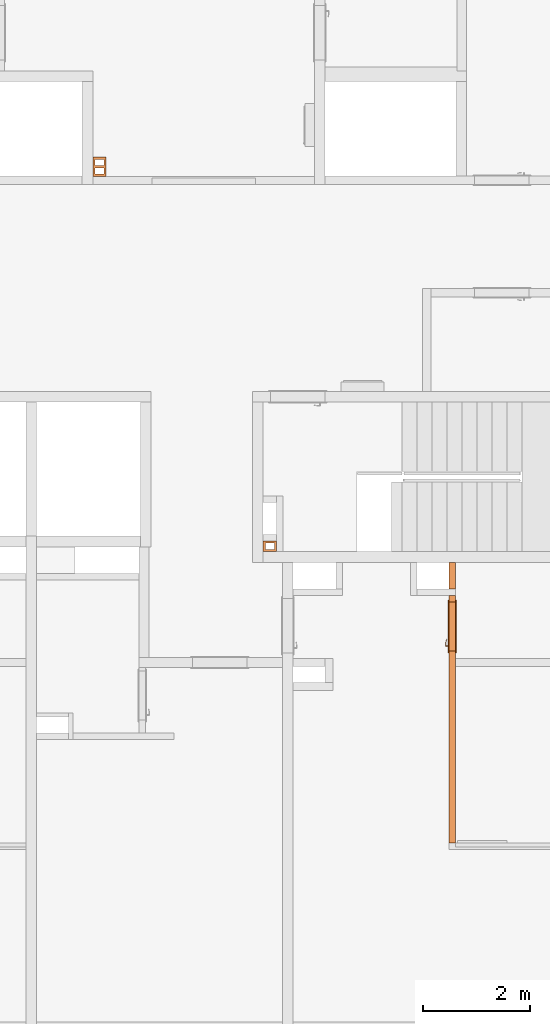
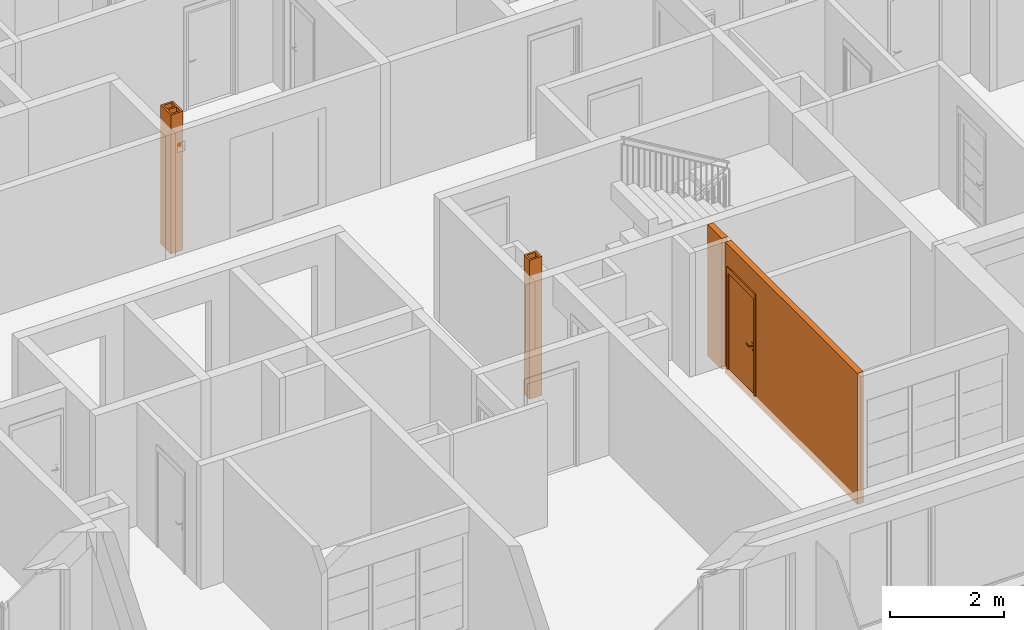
# One storey, part 28 of 67: 4 proxies, 1 opening.
"""IFC2X3 building model written with IfcOpenShell, lengths in millimetres."""

import ifcopenshell
import ifcopenshell.guid

model = None  # the IFC model being written
_history = None  # IfcOwnerHistory: only IFC2X3 demands one
_inside = {}  # id of a spatial element -> (the spatial element, [elements in it])
_under = {}  # id of a project, library or spatial element -> (it, [spatial elements below it])
_declared = {}  # id of a project -> (the project, [libraries it declares])
_typed = {}  # id of a type object -> (the type object, [elements of that type])
_made_of = {}  # id of a material, layer set ... -> (it, [elements and type objects made of it])


def new_model(schema):
    """Start an empty IFC model of exactly this schema.

    Asked for "IFC4X3", IfcOpenShell would pick the latest addendum, in which some entities
    have other attributes; the version numbers below select the first issue.
    IFC2X3 requires an IfcOwnerHistory on every rooted entity: one is made here for all.
    """
    global model, _history
    if schema == "IFC4X3":
        model = ifcopenshell.file(schema_version=(4, 3, 0, 0))
    else:
        model = ifcopenshell.file(schema=schema)
    _inside.clear()
    _under.clear()
    _declared.clear()
    _typed.clear()
    _made_of.clear()
    _history = None
    if model.schema == "IFC2X3":
        org = make("IfcOrganization", Name="unknown")
        user = make(
            "IfcPersonAndOrganization",
            ThePerson=make("IfcPerson", FamilyName="unknown"),
            TheOrganization=org,
        )
        app = make(
            "IfcApplication",
            ApplicationDeveloper=org,
            Version="unknown",
            ApplicationFullName="unknown",
            ApplicationIdentifier="unknown",
        )
        _history = make(
            "IfcOwnerHistory",
            OwningUser=user,
            OwningApplication=app,
            ChangeAction="ADDED",
            CreationDate=0,
        )
    return model


def make(cls, **values):
    """One entity of the class cls with the attributes given. An attribute that is None is left unset."""
    return model.create_entity(
        cls, **{name: value for name, value in values.items() if value is not None}
    )


def entity(cls, *values):
    """Any entity or typed value of the class cls, its attributes in the order of the schema. None: left unset."""
    e = model.create_entity(cls)
    for i, value in enumerate(values):
        if value is not None:
            e[i] = value
    return e


def rooted(cls, **values):
    """An entity with a GlobalId (a new one), such as an element, a storey or a relation."""
    return make(cls, GlobalId=ifcopenshell.guid.new(), OwnerHistory=_history, **values)


def si_unit(unit_type, name, prefix=None):
    """IfcSIUnit, for example si_unit("LENGTHUNIT", "METRE", prefix="MILLI")."""
    return make("IfcSIUnit", UnitType=unit_type, Prefix=prefix, Name=name)


def converted_unit(unit_type, name, factor, base, dimensions=None, offset=None):
    """IfcConversionBasedUnit, such as the inch: factor (a typed value) times the base unit."""
    return make(
        "IfcConversionBasedUnit"
        if offset is None
        else "IfcConversionBasedUnitWithOffset",
        ConversionOffset=offset,
        Dimensions=None
        if dimensions is None
        else entity("IfcDimensionalExponents", *dimensions),
        UnitType=unit_type,
        Name=name,
        ConversionFactor=make(
            "IfcMeasureWithUnit", ValueComponent=factor, UnitComponent=base
        ),
    )


def derived_unit(unit_type, elements):
    """IfcDerivedUnit: a product of units, each with its exponent."""
    return make(
        "IfcDerivedUnit",
        Elements=[
            make("IfcDerivedUnitElement", Unit=unit, Exponent=power)
            for unit, power in elements
        ],
        UnitType=unit_type,
    )


def money_unit(currency):
    """IfcMonetaryUnit."""
    return make("IfcMonetaryUnit", Currency=currency)


def assignment(units):
    """IfcUnitAssignment: the units of a project."""
    return None if units is None else make("IfcUnitAssignment", Units=units)


def point(xyz):
    """IfcCartesianPoint."""
    return None if xyz is None else make("IfcCartesianPoint", Coordinates=xyz)


def direction(xyz):
    """IfcDirection."""
    return None if xyz is None else make("IfcDirection", DirectionRatios=xyz)


def frame(location, z_axis=None, x_axis=None):
    """IfcAxis2Placement3D, a coordinate frame: its origin and axes. An axis left out is left unset."""
    return make(
        "IfcAxis2Placement3D",
        Location=point(location),
        Axis=direction(z_axis),
        RefDirection=direction(x_axis),
    )


def frame_2d(location, x_axis=None):
    """IfcAxis2Placement2D, a coordinate frame in the plane: its origin and x axis."""
    return make(
        "IfcAxis2Placement2D", Location=point(location), RefDirection=direction(x_axis)
    )


def origin_with_axes():
    """The frame at (0, 0, 0) with the z axis (0, 0, 1) and the x axis (1, 0, 0) written out."""
    return frame((0.0, 0.0, 0.0), z_axis=(0.0, 0.0, 1.0), x_axis=(1.0, 0.0, 0.0))


def origin_2d_with_axis():
    """The frame at (0, 0) in the plane with the x axis (1, 0) written out."""
    return frame_2d((0.0, 0.0), x_axis=(1.0, 0.0))


def place(relative_to, where):
    """IfcLocalPlacement: puts the frame where relative to a parent placement (None: the world)."""
    return make(
        "IfcLocalPlacement", PlacementRelTo=relative_to, RelativePlacement=where
    )


def context(
    kind, dimensions, precision=None, world=None, true_north=None, identifier=None
):
    """IfcGeometricRepresentationContext, for example the 3D "Model" context."""
    return make(
        "IfcGeometricRepresentationContext",
        ContextIdentifier=identifier,
        ContextType=kind,
        CoordinateSpaceDimension=dimensions,
        Precision=precision,
        WorldCoordinateSystem=world,
        TrueNorth=true_north,
    )


def subcontext(parent, identifier, kind, view, scale=None):
    """IfcGeometricRepresentationSubContext, for example "Body" below "Model"."""
    return make(
        "IfcGeometricRepresentationSubContext",
        ContextIdentifier=identifier,
        ContextType=kind,
        ParentContext=parent,
        TargetScale=scale,
        TargetView=view,
    )


def project(units=None, contexts=None):
    """IfcProject with its units and contexts."""
    return rooted(
        "IfcProject",
        Name="project",
        RepresentationContexts=contexts,
        UnitsInContext=assignment(units),
    )


def spatial(cls, under=None, at=None, **own):
    """A site, building, storey or space (cls), placed at a placement, below another one or the project."""
    s = rooted(cls, ObjectPlacement=at, **own)
    if under is not None:
        _under.setdefault(under.id(), (under, []))[1].append(s)
    return s


def profile(cls, at=None, kind="AREA", **sizes):
    """A parametric profile (cls). Its sizes go by their IFC names, for example OverallWidth=200.0."""
    return make(cls, ProfileType=kind, Position=at, **sizes)


def rectangle(**sizes):
    """IfcRectangleProfileDef."""
    return profile("IfcRectangleProfileDef", **sizes)


def extrude(swept, where, along, depth):
    """IfcExtrudedAreaSolid: the profile swept, set in the frame where, extruded along a direction by depth."""
    return make(
        "IfcExtrudedAreaSolid",
        SweptArea=swept,
        Position=where,
        ExtrudedDirection=direction(along),
        Depth=depth,
    )


def faces_of(points, faces, orient=None, outer=None):
    """IfcFace entities. A face is a list of loops; a loop is a list of indices into points, from 0.

    orient and outer hold one flag for each loop. By default every Orientation is true, the
    first loop of a face is its IfcFaceOuterBound and the others are IfcFaceBound.
    """
    made = []
    for i, loops in enumerate(faces):
        bounds = []
        for j, loop in enumerate(loops):
            is_outer = j == 0 if outer is None else outer[i][j]
            bounds.append(
                make(
                    "IfcFaceOuterBound" if is_outer else "IfcFaceBound",
                    Bound=make("IfcPolyLoop", Polygon=[points[k] for k in loop]),
                    Orientation=True if orient is None else orient[i][j],
                )
            )
        made.append(make("IfcFace", Bounds=bounds))
    return made


def open_shell(faces, orient=None, outer=None):
    """The faces of one IfcOpenShell. surface_model builds it on its shared points."""
    return ("IfcOpenShell", faces, orient, outer)


def faceted_brep(points, faces, orient=None, outer=None, voids=None):
    """IfcFacetedBrep: a solid bounded by flat faces; with voids (closed shells), ...WithVoids."""
    shared = [point(p) for p in points]
    hull = make("IfcClosedShell", CfsFaces=faces_of(shared, faces, orient, outer))
    if voids is None:
        return make("IfcFacetedBrep", Outer=hull)
    return make(
        "IfcFacetedBrepWithVoids",
        Outer=hull,
        Voids=[
            make(cls, CfsFaces=faces_of(shared, fs, o, b)) for cls, fs, o, b in voids
        ],
    )


def surface_model(cls, points, shells):
    """IfcFaceBasedSurfaceModel or IfcShellBasedSurfaceModel (cls): surfaces that need not close."""
    shared = [point(p) for p in points]
    made = [make(c, CfsFaces=faces_of(shared, fs, o, b)) for c, fs, o, b in shells]
    if cls == "IfcFaceBasedSurfaceModel":
        return make(cls, FbsmFaces=made)
    return make(cls, SbsmBoundary=made)


def shape(context_of_items, identifier, shape_type, items):
    """IfcShapeRepresentation: the items that make up one representation, for example the "Body"."""
    return make(
        "IfcShapeRepresentation",
        ContextOfItems=context_of_items,
        RepresentationIdentifier=identifier,
        RepresentationType=shape_type,
        Items=items,
    )


def source(mapping_origin, context_of_items, identifier, shape_type, items):
    """IfcRepresentationMap: a shape defined once, which mapped items show again and again."""
    return make(
        "IfcRepresentationMap",
        MappingOrigin=mapping_origin,
        MappedRepresentation=shape(context_of_items, identifier, shape_type, items),
    )


def transform(
    local_origin,
    x_axis=None,
    y_axis=None,
    z_axis=None,
    scale=None,
    scale2=None,
    scale3=None,
    uniform=True,
):
    """IfcCartesianTransformationOperator3D, or its non-uniform kind. x_axis, y_axis, z_axis: its Axis1, 2, 3."""
    if uniform:
        return make(
            "IfcCartesianTransformationOperator3D",
            Axis1=direction(x_axis),
            Axis2=direction(y_axis),
            LocalOrigin=point(local_origin),
            Scale=scale,
            Axis3=direction(z_axis),
        )
    return make(
        "IfcCartesianTransformationOperator3DnonUniform",
        Axis1=direction(x_axis),
        Axis2=direction(y_axis),
        LocalOrigin=point(local_origin),
        Scale=scale,
        Axis3=direction(z_axis),
        Scale2=scale2,
        Scale3=scale3,
    )


def mapped(mapping_source, mapping_target):
    """IfcMappedItem: shows the shape of a source again, moved by a transform."""
    return make(
        "IfcMappedItem", MappingSource=mapping_source, MappingTarget=mapping_target
    )


def material(Name=None, Category=None):
    """IfcMaterial."""
    return make("IfcMaterial", Name=Name, Category=Category)


def made_of(thing, what):
    """Note that an element or type object is made of a material, layer set ...; save() writes the relation."""
    if what is not None:
        _made_of.setdefault(what.id(), (what, []))[1].append(thing)
    return thing


def type_object(cls, material=None, **own):
    """A type object (cls), such as IfcWallType, which elements share."""
    return made_of(rooted(cls, **own), material)


def element(
    cls,
    number,
    at=None,
    inside=None,
    cuts=None,
    type_object=None,
    material=None,
    context=None,
    identifier="Body",
    shape_type=None,
    held_by="IfcProductDefinitionShape",
    body=None,
    shapes=None,
    **own,
):
    """One element of the class cls, such as IfcWall. Its Tag is "e" and its number.

    at: its placement. inside: the storey or other place that contains it. cuts: it is an
    opening in that element (IfcRelVoidsElement). A single representation is given by context,
    identifier, shape_type and body (its items); several are given by shapes. held_by: the class
    of the entity that holds the representations. save() writes the other relations.
    """
    e = rooted(cls, Tag="e%d" % number, ObjectPlacement=at, **own)
    if body is not None:
        shapes = [shape(context, identifier, shape_type, body)]
    if shapes is not None:
        e.Representation = make(held_by, Representations=shapes)
    if inside is not None:
        _inside.setdefault(inside.id(), (inside, []))[1].append(e)
    if cuts is not None:
        rooted(
            "IfcRelVoidsElement", RelatingBuildingElement=cuts, RelatedOpeningElement=e
        )
    if type_object is not None:
        _typed.setdefault(type_object.id(), (type_object, []))[1].append(e)
    return made_of(e, material)


def fill(opening, filler):
    """IfcRelFillsElement: the door or window that sits in an opening."""
    return rooted(
        "IfcRelFillsElement",
        RelatingOpeningElement=opening,
        RelatedBuildingElement=filler,
    )


def aggregate(whole, parts):
    """IfcRelAggregates: a whole, such as a stair, and the parts it consists of."""
    return rooted("IfcRelAggregates", RelatingObject=whole, RelatedObjects=parts)


def save(model, path):
    """Write the relations noted so far, then the file.

    IfcRelAggregates (storeys below a building ...), IfcRelContainedInSpatialStructure (elements
    in a storey), IfcRelDefinesByType, IfcRelAssociatesMaterial and IfcRelDeclares: one each for
    every whole, place, type object, material and project.
    """
    for whole, parts in _under.values():
        aggregate(whole, parts)
    for where, things in _inside.values():
        rooted(
            "IfcRelContainedInSpatialStructure",
            RelatedElements=things,
            RelatingStructure=where,
        )
    for kind, things in _typed.values():
        rooted("IfcRelDefinesByType", RelatedObjects=things, RelatingType=kind)
    for what, things in _made_of.values():
        rooted("IfcRelAssociatesMaterial", RelatedObjects=things, RelatingMaterial=what)
    for by, libraries in _declared.values():
        rooted("IfcRelDeclares", RelatingContext=by, RelatedDefinitions=libraries)
    model.write(path)


model = new_model("IFC2X3")

# Units and contexts
model_context = context("Model", 3, precision=0.01, world=origin_with_axes(), true_north=direction((0.34421633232, 0.938890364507)))
body_context = subcontext(model_context, "Body", "Model", "MODEL_VIEW")
ifc_project = project(units=[si_unit("LENGTHUNIT", "METRE", prefix="MILLI"), si_unit("AREAUNIT", "SQUARE_METRE"), si_unit("VOLUMEUNIT", "CUBIC_METRE"), converted_unit("PLANEANGLEUNIT", "DEGREE", entity("IfcPlaneAngleMeasure", 0.0174532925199), si_unit("PLANEANGLEUNIT", "RADIAN"), dimensions=[0, 0, 0, 0, 0, 0, 0]), si_unit("SOLIDANGLEUNIT", "STERADIAN"), money_unit("USD"), converted_unit("TIMEUNIT", "Year", entity("IfcTimeMeasure", 31556926.0), si_unit("TIMEUNIT", "SECOND"), dimensions=[0, 0, 1, 0, 0, 0, 0]), si_unit("MASSUNIT", "GRAM", prefix="KILO"), si_unit("THERMODYNAMICTEMPERATUREUNIT", "DEGREE_CELSIUS"), si_unit("LUMINOUSINTENSITYUNIT", "LUMEN"), si_unit("ENERGYUNIT", "JOULE", prefix="MEGA"), derived_unit("THERMALCONDUCTANCEUNIT", [(si_unit("POWERUNIT", "WATT"), 1), (si_unit("LENGTHUNIT", "METRE"), -1), (si_unit("THERMODYNAMICTEMPERATUREUNIT", "KELVIN"), -1)]), derived_unit("SPECIFICHEATCAPACITYUNIT", [(si_unit("ENERGYUNIT", "JOULE"), 1), (si_unit("MASSUNIT", "GRAM", prefix="KILO"), -1), (si_unit("THERMODYNAMICTEMPERATUREUNIT", "KELVIN"), -1)]), derived_unit("MASSDENSITYUNIT", [(si_unit("MASSUNIT", "GRAM", prefix="KILO"), 1), (si_unit("VOLUMEUNIT", "CUBIC_METRE"), -1)])], contexts=[model_context])

# Site, building, storey
site_placement = place(None, origin_with_axes())
site = spatial("IfcSite", under=ifc_project, at=site_placement, Name="USTRONIE MORSKIE", CompositionType="ELEMENT")
building_placement = place(site_placement, origin_with_axes())
building = spatial("IfcBuilding", under=site, at=building_placement, Name="Budynek", CompositionType="ELEMENT")
storey_placement = place(building_placement, frame((0.0, 0.0, 4000.0), z_axis=(0.0, 0.0, 1.0), x_axis=(1.0, 0.0, 0.0)))
storey = spatial("IfcBuildingStorey", under=building, at=storey_placement, Name="PIĘTRO 1", CompositionType="ELEMENT", Elevation=4000.0)

# Proxies, opening
ifc_material = material(Name="Bloczki silikatowe")
building_element_proxy_type_1 = type_object("IfcBuildingElementProxyType", Name="Bloczki silikatowe 120", PredefinedType="NOTDEFINED")
proxy_1_placement = place(storey_placement, frame((393297.920919, 724391.199036, -160.0), z_axis=(0.0, 0.0, 1.0), x_axis=(0.0, 1.0, 0.0)))
proxy_1 = element("IfcBuildingElementProxy", 1, at=proxy_1_placement, inside=storey, type_object=building_element_proxy_type_1, material=ifc_material, Name="SW-04", context=body_context, shape_type="Brep", body=[
    faceted_brep([(5310.0, 60.0, 0.0), (5310.0, -60.0, 0.0), (4810.0, -60.0, 0.0), (4810.0, 60.0, 0.0), (5310.0, 60.0, 2800.0), (5310.0, -60.0, 2800.0), (4810.0, -60.0, 2800.0), (4810.0, 60.0, 2800.0)], [[[0, 1, 2, 3]], [[1, 0, 4, 5]], [[1, 5, 6, 2]], [[7, 3, 2, 6]], [[4, 0, 3, 7]], [[5, 4, 7, 6]]]),
    faceted_brep([(4690.0, 60.0, 0.0), (4690.0, -60.0, 0.0), (59.9999999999, -60.0, 0.0), (59.9999999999, 60.0, 0.0), (4690.0, 60.0, 2800.0), (4690.0, -60.0, 2800.0), (59.9999999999, -60.0, 2800.0), (59.9999999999, 60.0, 2800.0)], [[[0, 1, 2, 3]], [[1, 0, 4, 5]], [[1, 5, 6, 2]], [[7, 3, 2, 6]], [[4, 0, 3, 7]], [[5, 4, 7, 6]]]),
])
opening_placement = place(proxy_1_placement, frame((4110.0, 0.0, 160.0), z_axis=(0.0, 0.0, 1.0), x_axis=(1.0, 0.0, 0.0)))
opening = element("IfcOpeningElement", 2, at=opening_placement, cuts=proxy_1, Name="Dw.4", context=body_context, shape_type="SweptSolid", body=[
    extrude(rectangle(XDim=920.0, YDim=2070.0, at=origin_2d_with_axis()), frame((0.0, 120.0, 1035.0), z_axis=(0.0, -1.0, 0.0), x_axis=(1.0, 0.0, 0.0)), (0.0, 0.0, 1.0), 360.0),
    extrude(rectangle(XDim=994.0, YDim=2177.0, at=origin_2d_with_axis()), frame((0.0, 60.0, 1088.5), z_axis=(0.0, -1.0, 0.0), x_axis=(1.0, 0.0, 0.0)), (0.0, 0.0, -1.0), 120.0),
    extrude(rectangle(XDim=994.0, YDim=2177.0, at=origin_2d_with_axis()), frame((0.0, -60.0, 1088.5), z_axis=(0.0, 1.0, 0.0), x_axis=(1.0, 0.0, 0.0)), (0.0, 0.0, -1.0), 120.0),
])
building_element_proxy_type_2 = type_object("IfcBuildingElementProxyType", Name="Drzwi 23", PredefinedType="NOTDEFINED")
shared_shape_1 = source(origin_with_axes(), body_context, "Body", "SurfaceModel", [
    faceted_brep([(-460.0, 0.0, 0.0), (-460.0, 5.0, 0.0), (-435.0, 5.0, 0.0), (-435.0, 0.0, 0.0), (-460.0, 0.0, 2070.0), (-460.0, 5.0, 2070.0), (-435.0, 5.0, 2045.0), (-435.0, 0.0, 2045.0)], [[[0, 1, 2, 3]], [[4, 5, 1, 0]], [[1, 5, 6, 2]], [[3, 2, 6, 7]], [[0, 3, 7, 4]], [[7, 6, 5, 4]]]),
    faceted_brep([(460.0, 0.0, 2070.0), (460.0, 5.0, 2070.0), (435.0, 5.0, 2045.0), (435.0, 0.0, 2045.0), (460.0, 0.0, 0.0), (460.0, 5.0, 0.0), (435.0, 5.0, 0.0), (435.0, 0.0, 0.0)], [[[0, 1, 2, 3]], [[4, 5, 1, 0]], [[1, 5, 6, 2]], [[3, 2, 6, 7]], [[0, 3, 7, 4]], [[7, 6, 5, 4]]]),
    faceted_brep([(-435.0, 0.0, 2045.0), (-435.0, 5.0, 2045.0), (435.0, 5.0, 2045.0), (435.0, 0.0, 2045.0), (-460.0, 0.0, 2070.0), (-460.0, 5.0, 2070.0), (460.0, 5.0, 2070.0), (460.0, 0.0, 2070.0)], [[[0, 1, 2, 3]], [[4, 5, 1, 0]], [[1, 5, 6, 2]], [[3, 2, 6, 7]], [[0, 3, 7, 4]], [[7, 6, 5, 4]]]),
    faceted_brep([(-497.0, 24.0, 0.0), (-447.0, 24.0, 0.0), (-447.0, 5.0, 0.0), (-497.0, 5.0, 0.0), (-497.0, 24.0, 2177.0), (-447.0, 24.0, 2057.0), (-447.0, 5.0, 2057.0), (-497.0, 5.0, 2177.0)], [[[0, 1, 2, 3]], [[0, 4, 5, 1]], [[1, 5, 6, 2]], [[3, 2, 6, 7]], [[4, 0, 3, 7]], [[5, 4, 7, 6]]]),
    faceted_brep([(497.0, 24.0, 2177.0), (447.0, 24.0, 2057.0), (447.0, 5.0, 2057.0), (497.0, 5.0, 2177.0), (497.0, 24.0, 0.0), (447.0, 24.0, 0.0), (447.0, 5.0, 0.0), (497.0, 5.0, 0.0)], [[[0, 1, 2, 3]], [[0, 4, 5, 1]], [[1, 5, 6, 2]], [[3, 2, 6, 7]], [[4, 0, 3, 7]], [[5, 4, 7, 6]]]),
    faceted_brep([(-497.0, 24.0, 2177.0), (-447.0, 24.0, 2057.0), (-447.0, 5.0, 2057.0), (-497.0, 5.0, 2177.0), (497.0, 24.0, 2177.0), (447.0, 24.0, 2057.0), (447.0, 5.0, 2057.0), (497.0, 5.0, 2177.0)], [[[0, 1, 2, 3]], [[0, 4, 5, 1]], [[1, 5, 6, 2]], [[3, 2, 6, 7]], [[4, 0, 3, 7]], [[5, 4, 7, 6]]]),
    faceted_brep([(-497.0, -134.0, 0.0), (-497.0, -115.0, 0.0), (-447.0, -115.0, 0.0), (-447.0, -134.0, 0.0), (-497.0, -134.0, 2177.0), (-497.0, -115.0, 2177.0), (-447.0, -115.0, 2057.0), (-447.0, -134.0, 2057.0)], [[[0, 1, 2, 3]], [[4, 5, 1, 0]], [[1, 5, 6, 2]], [[3, 2, 6, 7]], [[0, 3, 7, 4]], [[7, 6, 5, 4]]]),
    faceted_brep([(497.0, -134.0, 2177.0), (497.0, -115.0, 2177.0), (447.0, -115.0, 2057.0), (447.0, -134.0, 2057.0), (497.0, -134.0, 0.0), (497.0, -115.0, 0.0), (447.0, -115.0, 0.0), (447.0, -134.0, 0.0)], [[[0, 1, 2, 3]], [[4, 5, 1, 0]], [[1, 5, 6, 2]], [[3, 2, 6, 7]], [[0, 3, 7, 4]], [[7, 6, 5, 4]]]),
    faceted_brep([(-497.0, -134.0, 2177.0), (-497.0, -115.0, 2177.0), (-447.0, -115.0, 2057.0), (-447.0, -134.0, 2057.0), (497.0, -134.0, 2177.0), (497.0, -115.0, 2177.0), (447.0, -115.0, 2057.0), (447.0, -134.0, 2057.0)], [[[0, 1, 2, 3]], [[4, 5, 1, 0]], [[1, 5, 6, 2]], [[3, 2, 6, 7]], [[0, 3, 7, 4]], [[7, 6, 5, 4]]]),
    faceted_brep([(-400.0, -40.0, 0.0), (-400.0, -40.0, 2000.0), (-400.0, -115.0, 2000.0), (-400.0, -115.0, 0.0), (-412.0, -40.0, 2000.0), (-412.0, -40.0, 0.0), (-412.0, 0.0, 2000.0), (-460.0, 0.0, 2000.0), (-460.0, -115.0, 2000.0), (-460.0, -115.0, 0.0), (-460.0, 0.0, 0.0), (-412.0, 0.0, 0.0)], [[[0, 1, 2, 3]], [[4, 1, 0, 5]], [[4, 6, 7, 8, 2, 1]], [[3, 2, 8, 9]], [[5, 0, 3, 9, 10, 11]], [[6, 4, 5, 11]], [[6, 11, 10, 7]], [[10, 9, 8, 7]]]),
    faceted_brep([(412.0, -40.0, 2000.0), (400.0, -40.0, 2000.0), (400.0, -115.0, 2000.0), (460.0, -115.0, 2000.0), (460.0, 0.0, 2000.0), (412.0, 0.0, 2000.0), (412.0, -40.0, 0.0), (400.0, -40.0, 0.0), (400.0, -115.0, 0.0), (460.0, -115.0, 0.0), (460.0, 0.0, 0.0), (412.0, 0.0, 0.0)], [[[0, 1, 2, 3, 4, 5]], [[1, 0, 6, 7]], [[1, 7, 8, 2]], [[3, 2, 8, 9]], [[4, 3, 9, 10]], [[11, 5, 4, 10]], [[0, 5, 11, 6]], [[6, 11, 10, 9, 8, 7]]]),
    faceted_brep([(-412.0, 0.0, 2012.0), (-412.0, 0.0, 2000.0), (-460.0, 0.0, 2000.0), (-460.0, 0.0, 2070.0), (460.0, 0.0, 2070.0), (460.0, 0.0, 2000.0), (412.0, 0.0, 2000.0), (412.0, 0.0, 2012.0), (-412.0, -40.0, 2012.0), (-412.0, -40.0, 2000.0), (-400.0, -40.0, 2000.0), (-400.0, -115.0, 2000.0), (-460.0, -115.0, 2000.0), (-460.0, -115.0, 2070.0), (460.0, -115.0, 2070.0), (460.0, -115.0, 2000.0), (412.0, -40.0, 2000.0), (400.0, -115.0, 2000.0), (400.0, -40.0, 2000.0), (412.0, -40.0, 2012.0)], [[[0, 1, 2, 3, 4, 5, 6, 7]], [[1, 0, 8, 9]], [[9, 10, 11, 12, 2, 1]], [[2, 12, 13, 3]], [[3, 13, 14, 4]], [[4, 14, 15, 5]], [[16, 6, 5, 15, 17, 18]], [[7, 6, 16, 19]], [[0, 7, 19, 8]], [[16, 18, 10, 9, 8, 19]], [[10, 18, 17, 11]], [[17, 15, 14, 13, 12, 11]]]),
    faceted_brep([(-390.5, -40.0, 1060.0), (-390.5, -43.0, 1060.0), (-333.5, -43.0, 1060.0), (-333.5, -40.0, 1060.0), (-390.5, -40.0, 870.0), (-390.5, -43.0, 870.0), (-333.5, -43.0, 870.0), (-333.5, -40.0, 870.0)], [[[0, 1, 2, 3]], [[4, 5, 1, 0]], [[1, 5, 6, 2]], [[3, 2, 6, 7]], [[0, 3, 7, 4]], [[7, 6, 5, 4]]]),
    faceted_brep([(-362.0, -104.0, 990.0), (-362.0, -111.0, 990.0), (-367.0, -111.0, 991.339745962), (-367.0, -104.0, 991.339745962), (-337.0, -104.0, 990.0), (-337.0, -111.0, 990.0), (-337.0, -111.0, 1010.0), (-362.0, -111.0, 1010.0), (-367.0, -111.0, 1008.66025404), (-370.660254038, -111.0, 1005.0), (-372.0, -111.0, 1000.0), (-370.660254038, -111.0, 995.0), (-370.660254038, -104.0, 995.0), (-372.0, -104.0, 1000.0), (-370.660254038, -104.0, 1005.0), (-367.0, -104.0, 1008.66025404), (-362.0, -104.0, 1010.0), (-337.0, -104.0, 1010.0)], [[[0, 1, 2, 3]], [[4, 5, 1, 0]], [[1, 5, 6, 7, 8, 9, 10, 11, 2]], [[3, 2, 11, 12]], [[0, 3, 12, 13, 14, 15, 16, 17, 4]], [[17, 6, 5, 4]], [[16, 7, 6, 17]], [[15, 8, 7, 16]], [[14, 9, 8, 15]], [[13, 10, 9, 14]], [[12, 11, 10, 13]]]),
    surface_model("IfcShellBasedSurfaceModel", [(-337.0, -104.0, 1010.0), (-323.596090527, -111.0, 1009.60730092), (-323.901717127, -104.0, 1009.60730092), (-337.0, -111.0, 1010.0), (-296.890283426, -108.663544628, 1008.82190275), (-323.901717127, -104.0, 990.392699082), (-337.0, -104.0, 990.0), (-337.0, -111.0, 990.0), (-323.596090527, -111.0, 990.392699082), (-296.890283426, -108.663544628, 991.178097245), (-297.804837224, -101.716818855, 1008.82190275), (-297.804837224, -101.716818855, 991.178097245), (-270.489735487, -104.008415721, 991.963495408), (-270.489735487, -104.008415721, 1008.03650459), (-272.006256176, -97.1678329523, 1008.03650459), (-272.006256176, -97.1678329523, 991.963495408), (-244.59537082, -97.0700416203, 992.748893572), (-244.59537082, -97.0700416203, 1007.25110643), (-246.702316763, -90.3876628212, 1007.25110643), (-246.702316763, -90.3876628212, 992.748893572), (-236.538795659, -94.1376880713, 993.0), (-236.538795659, -94.1376880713, 1007.0), (-238.829442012, -87.5221707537, 1007.0), (-238.829442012, -87.5221707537, 993.0)], [open_shell([[[0, 1, 2]], [[0, 3, 1]], [[2, 1, 4]], [[0, 2, 5, 6]], [[3, 7, 8, 1]], [[1, 8, 9, 4]], [[2, 4, 10]], [[2, 10, 11, 5]], [[5, 7, 6]], [[5, 8, 7]], [[11, 9, 8]], [[4, 9, 12, 13]], [[10, 4, 13]], [[10, 14, 15, 11]], [[11, 8, 5]], [[15, 9, 11]], [[15, 12, 9]], [[13, 12, 16, 17]], [[10, 13, 14]], [[14, 18, 19, 15]], [[19, 12, 15]], [[19, 16, 12]], [[17, 16, 20, 21]], [[14, 13, 17]], [[14, 17, 18]], [[18, 22, 23, 19]], [[23, 16, 19]], [[23, 20, 16]], [[22, 21, 20, 23]], [[18, 17, 21]], [[18, 21, 22]]])]),
    faceted_brep([(-351.607695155, -53.0, 994.0), (-350.741669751, -43.0, 993.5), (-349.0, -43.0, 1000.0), (-350.0, -53.0, 1000.0), (-356.0, -53.0, 989.607695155), (-355.5, -43.0, 988.741669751), (-362.0, -43.0, 987.0), (-368.5, -43.0, 988.741669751), (-373.258330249, -43.0, 993.5), (-375.0, -43.0, 1000.0), (-373.258330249, -43.0, 1006.5), (-368.5, -43.0, 1011.25833025), (-362.0, -43.0, 1013.0), (-355.5, -43.0, 1011.25833025), (-350.741669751, -43.0, 1006.5), (-351.607695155, -53.0, 1006.0), (-356.0, -53.0, 1010.39230485), (-362.0, -53.0, 1012.0), (-368.0, -53.0, 1010.39230485), (-372.392304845, -53.0, 1006.0), (-374.0, -53.0, 1000.0), (-372.392304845, -53.0, 994.0), (-368.0, -53.0, 989.607695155), (-362.0, -53.0, 988.0)], [[[0, 1, 2, 3]], [[4, 5, 1, 0]], [[2, 1, 5, 6, 7, 8, 9, 10, 11, 12, 13, 14]], [[3, 2, 14, 15]], [[3, 15, 16, 17, 18, 19, 20, 21, 22, 23, 4, 0]], [[23, 6, 5, 4]], [[22, 7, 6, 23]], [[21, 8, 7, 22]], [[20, 9, 8, 21]], [[19, 10, 9, 20]], [[18, 11, 10, 19]], [[17, 12, 11, 18]], [[16, 13, 12, 17]], [[15, 14, 13, 16]]]),
    faceted_brep([(-344.679491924, -47.0, 895.0), (-342.947441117, -43.0, 894.0), (-340.0, -43.0, 905.0), (-342.0, -47.0, 905.0), (-352.0, -47.0, 887.679491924), (-351.0, -43.0, 885.947441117), (-362.0, -43.0, 883.0), (-373.0, -43.0, 885.947441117), (-381.052558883, -43.0, 894.0), (-384.0, -43.0, 905.0), (-381.052558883, -43.0, 916.0), (-373.0, -43.0, 924.052558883), (-362.0, -43.0, 927.0), (-351.0, -43.0, 924.052558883), (-342.947441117, -43.0, 916.0), (-344.679491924, -47.0, 915.0), (-352.0, -47.0, 922.320508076), (-362.0, -47.0, 925.0), (-372.0, -47.0, 922.320508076), (-379.320508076, -47.0, 915.0), (-382.0, -47.0, 905.0), (-379.320508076, -47.0, 895.0), (-372.0, -47.0, 887.679491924), (-362.0, -47.0, 885.0)], [[[0, 1, 2, 3]], [[4, 5, 1, 0]], [[2, 1, 5, 6, 7, 8, 9, 10, 11, 12, 13, 14]], [[3, 2, 14, 15]], [[3, 15, 16, 17, 18, 19, 20, 21, 22, 23, 4, 0]], [[23, 6, 5, 4]], [[22, 7, 6, 23]], [[21, 8, 7, 22]], [[20, 9, 8, 21]], [[19, 10, 9, 20]], [[18, 11, 10, 19]], [[17, 12, 11, 18]], [[16, 13, 12, 17]], [[15, 14, 13, 16]]]),
    faceted_brep([(-357.050252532, -49.0, 909.050252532), (-356.343145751, -47.0, 908.343145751), (-354.0, -47.0, 914.0), (-355.0, -49.0, 914.0), (-362.0, -49.0, 907.0), (-362.0, -47.0, 906.0), (-367.656854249, -47.0, 908.343145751), (-370.0, -47.0, 914.0), (-367.656854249, -47.0, 919.656854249), (-362.0, -47.0, 922.0), (-356.343145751, -47.0, 919.656854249), (-357.050252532, -49.0, 918.949747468), (-362.0, -49.0, 921.0), (-366.949747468, -49.0, 918.949747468), (-369.0, -49.0, 914.0), (-366.949747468, -49.0, 909.050252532)], [[[0, 1, 2, 3]], [[4, 5, 1, 0]], [[2, 1, 5, 6, 7, 8, 9, 10]], [[3, 2, 10, 11]], [[3, 11, 12, 13, 14, 15, 4, 0]], [[15, 6, 5, 4]], [[14, 7, 6, 15]], [[13, 8, 7, 14]], [[12, 9, 8, 13]], [[11, 10, 9, 12]]]),
    faceted_brep([(-362.0, -53.0, 1010.0), (-362.0, -104.0, 1010.0), (-357.0, -104.0, 1008.66025404), (-357.0, -53.0, 1008.66025404), (-367.0, -53.0, 1008.66025404), (-367.0, -104.0, 1008.66025404), (-370.660254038, -104.0, 1005.0), (-372.0, -104.0, 1000.0), (-370.660254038, -104.0, 995.0), (-367.0, -104.0, 991.339745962), (-362.0, -104.0, 990.0), (-357.0, -104.0, 991.339745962), (-353.339745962, -104.0, 995.0), (-352.0, -104.0, 1000.0), (-353.339745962, -104.0, 1005.0), (-353.339745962, -53.0, 1005.0), (-352.0, -53.0, 1000.0), (-353.339745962, -53.0, 995.0), (-357.0, -53.0, 991.339745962), (-362.0, -53.0, 990.0), (-367.0, -53.0, 991.339745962), (-370.660254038, -53.0, 995.0), (-372.0, -53.0, 1000.0), (-370.660254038, -53.0, 1005.0)], [[[0, 1, 2, 3]], [[4, 5, 1, 0]], [[1, 5, 6, 7, 8, 9, 10, 11, 12, 13, 14, 2]], [[3, 2, 14, 15]], [[0, 3, 15, 16, 17, 18, 19, 20, 21, 22, 23, 4]], [[23, 6, 5, 4]], [[22, 7, 6, 23]], [[21, 8, 7, 22]], [[20, 9, 8, 21]], [[19, 10, 9, 20]], [[18, 11, 10, 19]], [[17, 12, 11, 18]], [[16, 13, 12, 17]], [[15, 14, 13, 16]]]),
    faceted_brep([(-390.5, 0.0, 1060.0), (-333.5, 0.0, 1060.0), (-333.5, 3.0, 1060.0), (-390.5, 3.0, 1060.0), (-390.5, 0.0, 870.0), (-333.5, 0.0, 870.0), (-333.5, 3.0, 870.0), (-390.5, 3.0, 870.0)], [[[0, 1, 2, 3]], [[0, 4, 5, 1]], [[1, 5, 6, 2]], [[3, 2, 6, 7]], [[4, 0, 3, 7]], [[5, 4, 7, 6]]]),
    faceted_brep([(-362.0, 64.0, 990.0), (-367.0, 64.0, 991.339745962), (-367.0, 71.0, 991.339745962), (-362.0, 71.0, 990.0), (-337.0, 64.0, 990.0), (-337.0, 64.0, 1010.0), (-362.0, 64.0, 1010.0), (-367.0, 64.0, 1008.66025404), (-370.660254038, 64.0, 1005.0), (-372.0, 64.0, 1000.0), (-370.660254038, 64.0, 995.0), (-370.660254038, 71.0, 995.0), (-372.0, 71.0, 1000.0), (-370.660254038, 71.0, 1005.0), (-367.0, 71.0, 1008.66025404), (-362.0, 71.0, 1010.0), (-337.0, 71.0, 1010.0), (-337.0, 71.0, 990.0)], [[[0, 1, 2, 3]], [[0, 4, 5, 6, 7, 8, 9, 10, 1]], [[1, 10, 11, 2]], [[3, 2, 11, 12, 13, 14, 15, 16, 17]], [[4, 0, 3, 17]], [[5, 4, 17, 16]], [[6, 5, 16, 15]], [[7, 6, 15, 14]], [[8, 7, 14, 13]], [[9, 8, 13, 12]], [[10, 9, 12, 11]]]),
    surface_model("IfcShellBasedSurfaceModel", [(-337.0, 64.0, 1010.0), (-323.901717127, 64.0, 1009.60730092), (-323.596090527, 71.0, 1009.60730092), (-337.0, 64.0, 990.0), (-323.901717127, 64.0, 990.392699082), (-296.890283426, 68.6635446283, 1008.82190275), (-337.0, 71.0, 1010.0), (-337.0, 71.0, 990.0), (-297.804837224, 61.716818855, 991.178097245), (-297.804837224, 61.716818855, 1008.82190275), (-296.890283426, 68.6635446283, 991.178097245), (-323.596090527, 71.0, 990.392699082), (-272.006256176, 57.1678329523, 991.963495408), (-272.006256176, 57.1678329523, 1008.03650459), (-270.489735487, 64.0084157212, 1008.03650459), (-270.489735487, 64.0084157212, 991.963495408), (-246.702316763, 50.3876628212, 992.748893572), (-246.702316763, 50.3876628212, 1007.25110643), (-244.59537082, 57.0700416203, 1007.25110643), (-244.59537082, 57.0700416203, 992.748893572), (-238.829442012, 47.5221707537, 993.0), (-238.829442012, 47.5221707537, 1007.0), (-236.538795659, 54.1376880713, 1007.0), (-236.538795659, 54.1376880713, 993.0)], [open_shell([[[0, 1, 2]], [[0, 3, 4, 1]], [[1, 5, 2]], [[0, 2, 6]], [[4, 3, 7]], [[1, 4, 8, 9]], [[1, 9, 5]], [[2, 5, 10, 11]], [[6, 2, 11, 7]], [[4, 7, 11]], [[8, 4, 11]], [[9, 8, 12, 13]], [[9, 14, 5]], [[5, 14, 15, 10]], [[8, 11, 10]], [[12, 8, 10]], [[13, 12, 16, 17]], [[9, 13, 14]], [[14, 18, 19, 15]], [[12, 10, 15]], [[16, 12, 15]], [[17, 16, 20, 21]], [[13, 17, 18]], [[13, 18, 14]], [[18, 22, 23, 19]], [[16, 15, 19]], [[20, 16, 19]], [[21, 20, 23, 22]], [[17, 21, 22]], [[17, 22, 18]], [[20, 19, 23]]])]),
    faceted_brep([(-351.607695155, 13.0, 994.0), (-350.0, 13.0, 1000.0), (-349.0, 3.0, 1000.0), (-350.741669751, 3.0, 993.5), (-356.0, 13.0, 989.607695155), (-362.0, 13.0, 988.0), (-368.0, 13.0, 989.607695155), (-372.392304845, 13.0, 994.0), (-374.0, 13.0, 1000.0), (-372.392304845, 13.0, 1006.0), (-368.0, 13.0, 1010.39230485), (-362.0, 13.0, 1012.0), (-356.0, 13.0, 1010.39230485), (-351.607695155, 13.0, 1006.0), (-350.741669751, 3.0, 1006.5), (-355.5, 3.0, 1011.25833025), (-362.0, 3.0, 1013.0), (-368.5, 3.0, 1011.25833025), (-373.258330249, 3.0, 1006.5), (-375.0, 3.0, 1000.0), (-373.258330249, 3.0, 993.5), (-368.5, 3.0, 988.741669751), (-362.0, 3.0, 987.0), (-355.5, 3.0, 988.741669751)], [[[0, 1, 2, 3]], [[1, 0, 4, 5, 6, 7, 8, 9, 10, 11, 12, 13]], [[1, 13, 14, 2]], [[2, 14, 15, 16, 17, 18, 19, 20, 21, 22, 23, 3]], [[4, 0, 3, 23]], [[5, 4, 23, 22]], [[6, 5, 22, 21]], [[7, 6, 21, 20]], [[8, 7, 20, 19]], [[9, 8, 19, 18]], [[10, 9, 18, 17]], [[11, 10, 17, 16]], [[12, 11, 16, 15]], [[13, 12, 15, 14]]]),
    faceted_brep([(-344.679491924, 7.0, 895.0), (-342.0, 7.0, 905.0), (-340.0, 3.0, 905.0), (-342.947441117, 3.0, 894.0), (-352.0, 7.0, 887.679491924), (-362.0, 7.0, 885.0), (-372.0, 7.0, 887.679491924), (-379.320508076, 7.0, 895.0), (-382.0, 7.0, 905.0), (-379.320508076, 7.0, 915.0), (-372.0, 7.0, 922.320508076), (-362.0, 7.0, 925.0), (-352.0, 7.0, 922.320508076), (-344.679491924, 7.0, 915.0), (-342.947441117, 3.0, 916.0), (-351.0, 3.0, 924.052558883), (-362.0, 3.0, 927.0), (-373.0, 3.0, 924.052558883), (-381.052558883, 3.0, 916.0), (-384.0, 3.0, 905.0), (-381.052558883, 3.0, 894.0), (-373.0, 3.0, 885.947441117), (-362.0, 3.0, 883.0), (-351.0, 3.0, 885.947441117)], [[[0, 1, 2, 3]], [[1, 0, 4, 5, 6, 7, 8, 9, 10, 11, 12, 13]], [[1, 13, 14, 2]], [[2, 14, 15, 16, 17, 18, 19, 20, 21, 22, 23, 3]], [[4, 0, 3, 23]], [[5, 4, 23, 22]], [[6, 5, 22, 21]], [[7, 6, 21, 20]], [[8, 7, 20, 19]], [[9, 8, 19, 18]], [[10, 9, 18, 17]], [[11, 10, 17, 16]], [[12, 11, 16, 15]], [[13, 12, 15, 14]]]),
    faceted_brep([(-357.050252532, 9.0, 909.050252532), (-355.0, 9.0, 914.0), (-354.0, 7.0, 914.0), (-356.343145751, 7.0, 908.343145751), (-362.0, 9.0, 907.0), (-366.949747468, 9.0, 909.050252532), (-369.0, 9.0, 914.0), (-366.949747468, 9.0, 918.949747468), (-362.0, 9.0, 921.0), (-357.050252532, 9.0, 918.949747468), (-356.343145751, 7.0, 919.656854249), (-362.0, 7.0, 922.0), (-367.656854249, 7.0, 919.656854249), (-370.0, 7.0, 914.0), (-367.656854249, 7.0, 908.343145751), (-362.0, 7.0, 906.0)], [[[0, 1, 2, 3]], [[1, 0, 4, 5, 6, 7, 8, 9]], [[1, 9, 10, 2]], [[2, 10, 11, 12, 13, 14, 15, 3]], [[4, 0, 3, 15]], [[5, 4, 15, 14]], [[6, 5, 14, 13]], [[7, 6, 13, 12]], [[8, 7, 12, 11]], [[9, 8, 11, 10]]]),
    faceted_brep([(-362.0, 13.0, 1010.0), (-357.0, 13.0, 1008.66025404), (-357.0, 64.0, 1008.66025404), (-362.0, 64.0, 1010.0), (-367.0, 13.0, 1008.66025404), (-370.660254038, 13.0, 1005.0), (-372.0, 13.0, 1000.0), (-370.660254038, 13.0, 995.0), (-367.0, 13.0, 991.339745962), (-362.0, 13.0, 990.0), (-357.0, 13.0, 991.339745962), (-353.339745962, 13.0, 995.0), (-352.0, 13.0, 1000.0), (-353.339745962, 13.0, 1005.0), (-353.339745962, 64.0, 1005.0), (-352.0, 64.0, 1000.0), (-353.339745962, 64.0, 995.0), (-357.0, 64.0, 991.339745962), (-362.0, 64.0, 990.0), (-367.0, 64.0, 991.339745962), (-370.660254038, 64.0, 995.0), (-372.0, 64.0, 1000.0), (-370.660254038, 64.0, 1005.0), (-367.0, 64.0, 1008.66025404)], [[[0, 1, 2, 3]], [[0, 4, 5, 6, 7, 8, 9, 10, 11, 12, 13, 1]], [[1, 13, 14, 2]], [[3, 2, 14, 15, 16, 17, 18, 19, 20, 21, 22, 23]], [[4, 0, 3, 23]], [[5, 4, 23, 22]], [[6, 5, 22, 21]], [[7, 6, 21, 20]], [[8, 7, 20, 19]], [[9, 8, 19, 18]], [[10, 9, 18, 17]], [[11, 10, 17, 16]], [[12, 11, 16, 15]], [[13, 12, 15, 14]]]),
    faceted_brep([(412.0, 0.0, 0.0), (412.0, -40.0, 0.0), (-412.0, -40.0, 0.0), (-412.0, 0.0, 0.0), (412.0, 0.0, 2012.0), (412.0, -40.0, 2012.0), (-412.0, -40.0, 2012.0), (-412.0, 0.0, 2012.0)], [[[0, 1, 2, 3]], [[4, 5, 1, 0]], [[1, 5, 6, 2]], [[3, 2, 6, 7]], [[0, 3, 7, 4]], [[7, 6, 5, 4]]]),
])
proxy_2_placement = place(opening_placement, frame((-400.0, 0.0, 0.0), z_axis=(0.0, 0.0, 1.0), x_axis=(1.0, 0.0, 0.0)))
proxy_2 = element("IfcBuildingElementProxy", 3, at=proxy_2_placement, inside=storey, type_object=building_element_proxy_type_2, Name="Dw.4", context=body_context, shape_type="MappedRepresentation", body=[
    mapped(shared_shape_1, transform((400.0, 55.0, 0.0))),
])
fill(opening, proxy_2)

# Proxies
building_element_proxy_type_3 = type_object("IfcBuildingElementProxyType", PredefinedType="NOTDEFINED")
shared_shape_2 = source(origin_with_axes(), body_context, "Body", "Brep", [
    faceted_brep([(0.0, 0.0, 0.0), (200.0, 0.0, 0.0), (200.0, 0.0, 2970.0), (0.0, 0.0, 2970.0), (0.0, 250.0, 0.0), (200.0, 250.0, 0.0), (40.0, 210.0, 0.0), (40.0, 40.0, 0.0), (160.0, 40.0, 0.0), (160.0, 210.0, 0.0), (200.0, 250.0, 2970.0), (0.0, 250.0, 2970.0), (40.0, 210.0, 2970.0), (160.0, 210.0, 2970.0), (160.0, 40.0, 2970.0), (40.0, 40.0, 2970.0)], [[[0, 1, 2, 3]], [[0, 4, 5, 1], [6, 7, 8, 9]], [[1, 5, 10, 2]], [[3, 2, 10, 11], [12, 13, 14, 15]], [[4, 0, 3, 11]], [[5, 4, 11, 10]], [[7, 6, 12, 15]], [[8, 7, 15, 14]], [[9, 8, 14, 13]], [[6, 9, 13, 12]]]),
])
proxy_3_placement = place(storey_placement, frame((389757.920919, 730101.199036, 0.0), z_axis=(0.0, 0.0, 1.0), x_axis=(0.0, -1.0, 0.0)))
element("IfcBuildingElementProxy", 4, at=proxy_3_placement, inside=storey, type_object=building_element_proxy_type_3, Name="Obiekt-007", context=body_context, shape_type="MappedRepresentation", body=[
    mapped(shared_shape_2, transform((0.0, 0.0, 0.0))),
])
shared_shape_3 = source(origin_with_axes(), body_context, "Body", "Brep", [
    faceted_brep([(0.0, 0.0, 0.0), (0.0, 0.0, 2970.0), (-360.0, 0.0, 2970.0), (-360.0, 0.0, 0.0), (0.0, 250.0, 0.0), (0.0, 250.0, 2970.0), (-360.0, 250.0, 2970.0), (-40.0, 210.0, 2970.0), (-40.0, 40.0, 2970.0), (-160.0, 40.0, 2970.0), (-160.0, 210.0, 2970.0), (-200.0, 210.0, 2970.0), (-200.0, 40.0, 2970.0), (-320.0, 40.0, 2970.0), (-320.0, 210.0, 2970.0), (-360.0, 250.0, 0.0), (-40.0, 210.0, 0.0), (-160.0, 210.0, 0.0), (-160.0, 40.0, 0.0), (-40.0, 40.0, 0.0), (-200.0, 210.0, 0.0), (-320.0, 210.0, 0.0), (-320.0, 40.0, 0.0), (-200.0, 40.0, 0.0)], [[[0, 1, 2, 3]], [[4, 5, 1, 0]], [[1, 5, 6, 2], [7, 8, 9, 10], [11, 12, 13, 14]], [[3, 2, 6, 15]], [[0, 3, 15, 4], [16, 17, 18, 19], [20, 21, 22, 23]], [[15, 6, 5, 4]], [[19, 8, 7, 16]], [[18, 9, 8, 19]], [[17, 10, 9, 18]], [[16, 7, 10, 17]], [[23, 12, 11, 20]], [[22, 13, 12, 23]], [[21, 14, 13, 22]], [[20, 11, 14, 21]]]),
])
proxy_4_placement = place(storey_placement, frame((386817.920919, 737286.199036, -40.0), z_axis=(0.0, 0.0, 1.0), x_axis=(0.0, 1.0, 0.0)))
element("IfcBuildingElementProxy", 5, at=proxy_4_placement, inside=storey, type_object=building_element_proxy_type_3, Name="Obiekt-007", context=body_context, shape_type="MappedRepresentation", body=[
    mapped(shared_shape_3, transform((0.0, 0.0, 0.0))),
])

save(model, "model.ifc")
